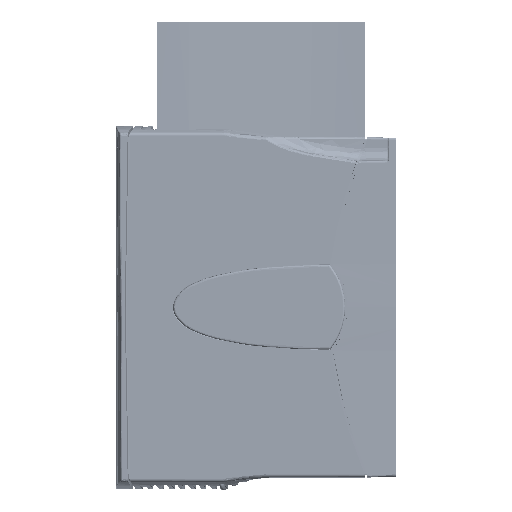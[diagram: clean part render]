
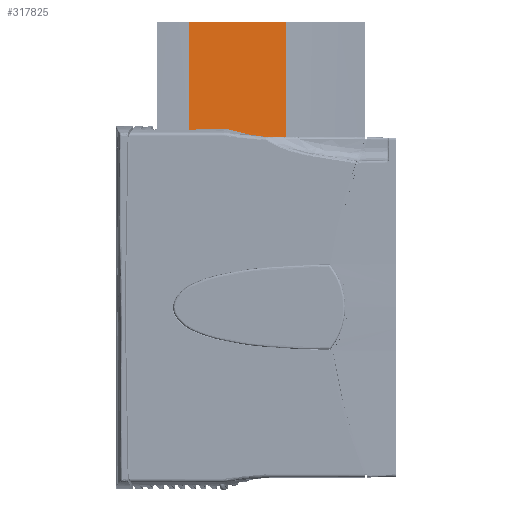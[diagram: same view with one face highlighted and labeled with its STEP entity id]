
A CAD part, top view. The second image highlights one B-rep face of the part: STEP entity #317825.
In plain terms, the highlighted cylindrical face has radius 2200 mm (diameter 4400 mm), a partial arc.
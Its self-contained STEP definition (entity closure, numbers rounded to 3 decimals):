
#187 = ORIENTED_EDGE ( 'NONE', *, *, #65075, .F. ) ;
#4689 = B_SPLINE_CURVE_WITH_KNOTS ( 'NONE', 3,
 ( #529684, #330134, #483807, #575651 ),
 .UNSPECIFIED., .F., .F.,
 ( 4, 4 ),
 ( 0., 0.002 ),
 .UNSPECIFIED. ) ;
#18004 = LINE ( 'NONE', #231949, #489734 ) ;
#18386 = ORIENTED_EDGE ( 'NONE', *, *, #408294, .F. ) ;
#26722 = CARTESIAN_POINT ( 'NONE',  ( -166.984, 106.747, -2176.184 ) ) ;
#49376 = CARTESIAN_POINT ( 'NONE',  ( 38.015, 60.665, 14.244 ) ) ;
#50306 = B_SPLINE_CURVE_WITH_KNOTS ( 'NONE', 3,
 ( #195192, #560886, #333040, #59452, #379105, #105326, #425032, #151245 ),
 .UNSPECIFIED., .F., .F.,
 ( 4, 2, 2, 4 ),
 ( 0., 0.005, 0.01, 0.019 ),
 .UNSPECIFIED. ) ;
#53501 = FACE_OUTER_BOUND ( 'NONE', #153899, .T. ) ;
#59452 = CARTESIAN_POINT ( 'NONE',  ( 46.306, 58.804, 13.453 ) ) ;
#65075 = EDGE_CURVE ( 'NONE', #380729, #369163, #4689, .T. ) ;
#72567 = DIRECTION ( 'NONE',  ( 0., 0., -1. ) ) ;
#85120 = CARTESIAN_POINT ( 'NONE',  ( -166.984, 57.139, -2176.184 ) ) ;
#93464 = CARTESIAN_POINT ( 'NONE',  ( 33.096, 60.562, 14.704 ) ) ;
#94384 = DIRECTION ( 'NONE',  ( 0., 0., 1. ) ) ;
#101368 = LINE ( 'NONE', #491269, #558873 ) ;
#103024 = CARTESIAN_POINT ( 'NONE',  ( 23.254, 60.332, 15.575 ) ) ;
#105326 = CARTESIAN_POINT ( 'NONE',  ( 52.376, 57.53, 12.854 ) ) ;
#113364 = VERTEX_POINT ( 'NONE', #459135 ) ;
#126982 = EDGE_CURVE ( 'NONE', #313138, #113364, #18004, .T. ) ;
#128605 = AXIS2_PLACEMENT_3D ( 'NONE', #85120, #404784, #130988 ) ;
#130988 = DIRECTION ( 'NONE',  ( 0., 0., 1. ) ) ;
#139370 = CARTESIAN_POINT ( 'NONE',  ( 23.254, 60.332, 15.575 ) ) ;
#151245 = CARTESIAN_POINT ( 'NONE',  ( 58.547, 57.139, 12.225 ) ) ;
#153899 = EDGE_LOOP ( 'NONE', ( #18386, #187, #425651, #201588, #374866, #498527, #202815 ) ) ;
#154890 = B_SPLINE_CURVE_WITH_KNOTS ( 'NONE', 3,
 ( #367169, #93464, #413124, #139370 ),
 .UNSPECIFIED., .F., .F.,
 ( 4, 4 ),
 ( 0., 0.015 ),
 .UNSPECIFIED. ) ;
#188245 = CARTESIAN_POINT ( 'NONE',  ( -166.984, -500000., -2176.184 ) ) ;
#195192 = CARTESIAN_POINT ( 'NONE',  ( 40.309, 60.388, 14.028 ) ) ;
#201588 = ORIENTED_EDGE ( 'NONE', *, *, #307335, .F. ) ;
#202815 = ORIENTED_EDGE ( 'NONE', *, *, #126982, .F. ) ;
#231949 = CARTESIAN_POINT ( 'NONE',  ( 23.254, -500000., 15.575 ) ) ;
#248391 = CIRCLE ( 'NONE', #128605, 2200. ) ;
#255476 = EDGE_CURVE ( 'NONE', #379912, #414076, #101368, .T. ) ;
#271699 = CARTESIAN_POINT ( 'NONE',  ( 58.547, 57.139, 12.225 ) ) ;
#307335 = EDGE_CURVE ( 'NONE', #379912, #378501, #248391, .T. ) ;
#313138 = VERTEX_POINT ( 'NONE', #103024 ) ;
#317825 = ADVANCED_FACE ( 'NONE', ( #53501 ), #525198, .T. ) ;
#330134 = CARTESIAN_POINT ( 'NONE',  ( 39.562, 60.591, 14.099 ) ) ;
#333040 = CARTESIAN_POINT ( 'NONE',  ( 43.302, 59.572, 13.743 ) ) ;
#346259 = DIRECTION ( 'NONE',  ( 0., 1., 0. ) ) ;
#353630 = AXIS2_PLACEMENT_3D ( 'NONE', #188245, #507894, #94384 ) ;
#367169 = CARTESIAN_POINT ( 'NONE',  ( 38.015, 60.665, 14.244 ) ) ;
#369163 = VERTEX_POINT ( 'NONE', #49376 ) ;
#374866 = ORIENTED_EDGE ( 'NONE', *, *, #255476, .T. ) ;
#378501 = VERTEX_POINT ( 'NONE', #271699 ) ;
#379105 = CARTESIAN_POINT ( 'NONE',  ( 47.815, 58.446, 13.305 ) ) ;
#379912 = VERTEX_POINT ( 'NONE', #501539 ) ;
#380729 = VERTEX_POINT ( 'NONE', #541096 ) ;
#404784 = DIRECTION ( 'NONE',  ( 0., -1., 0. ) ) ;
#408294 = EDGE_CURVE ( 'NONE', #369163, #313138, #154890, .T. ) ;
#411132 = EDGE_CURVE ( 'NONE', #113364, #414076, #544255, .T. ) ;
#413124 = CARTESIAN_POINT ( 'NONE',  ( 28.175, 60.45, 15.148 ) ) ;
#414076 = VERTEX_POINT ( 'NONE', #430756 ) ;
#425032 = CARTESIAN_POINT ( 'NONE',  ( 55.441, 57.139, 12.545 ) ) ;
#425651 = ORIENTED_EDGE ( 'NONE', *, *, #574983, .T. ) ;
#430756 = CARTESIAN_POINT ( 'NONE',  ( 64.781, 106.747, 11.574 ) ) ;
#459135 = CARTESIAN_POINT ( 'NONE',  ( 23.254, 106.747, 15.575 ) ) ;
#483807 = CARTESIAN_POINT ( 'NONE',  ( 38.789, 60.682, 14.171 ) ) ;
#489734 = VECTOR ( 'NONE', #507609, 1000. ) ;
#491269 = CARTESIAN_POINT ( 'NONE',  ( 64.781, -500000., 11.574 ) ) ;
#498527 = ORIENTED_EDGE ( 'NONE', *, *, #411132, .F. ) ;
#501539 = CARTESIAN_POINT ( 'NONE',  ( 64.781, 57.139, 11.574 ) ) ;
#507609 = DIRECTION ( 'NONE',  ( 0., 1., 0. ) ) ;
#507894 = DIRECTION ( 'NONE',  ( 0., 1., 0. ) ) ;
#525198 = CYLINDRICAL_SURFACE ( 'NONE', #353630, 2200. ) ;
#529684 = CARTESIAN_POINT ( 'NONE',  ( 40.309, 60.388, 14.028 ) ) ;
#541096 = CARTESIAN_POINT ( 'NONE',  ( 40.309, 60.388, 14.028 ) ) ;
#544255 = CIRCLE ( 'NONE', #590716, 2200. ) ;
#558873 = VECTOR ( 'NONE', #581186, 1000. ) ;
#560886 = CARTESIAN_POINT ( 'NONE',  ( 41.806, 59.982, 13.886 ) ) ;
#574983 = EDGE_CURVE ( 'NONE', #380729, #378501, #50306, .T. ) ;
#575651 = CARTESIAN_POINT ( 'NONE',  ( 38.015, 60.665, 14.244 ) ) ;
#581186 = DIRECTION ( 'NONE',  ( 0., 1., 0. ) ) ;
#590716 = AXIS2_PLACEMENT_3D ( 'NONE', #26722, #346259, #72567 ) ;
